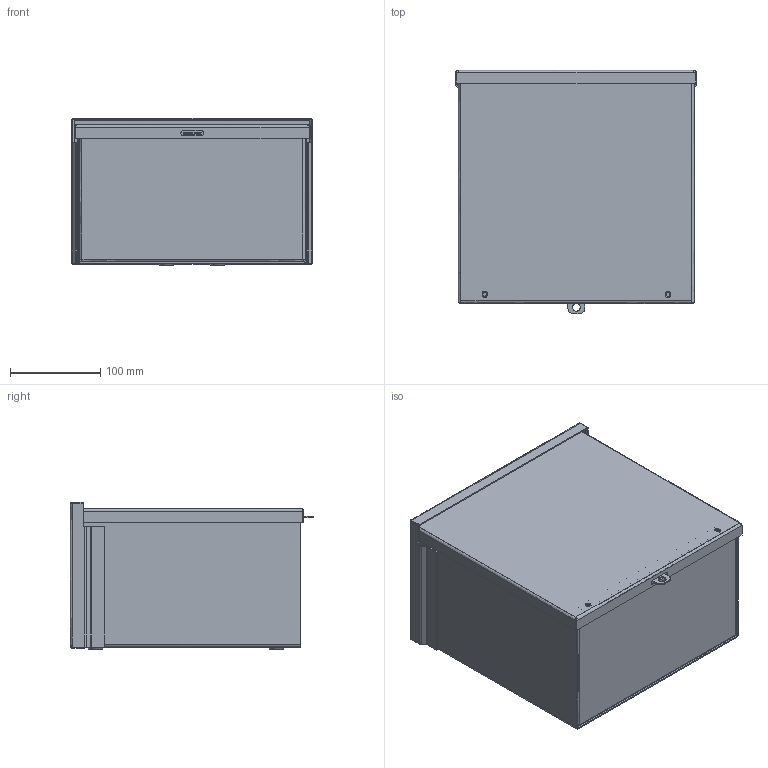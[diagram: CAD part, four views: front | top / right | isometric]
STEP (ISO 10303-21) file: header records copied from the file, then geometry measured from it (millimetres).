
FILE_DESCRIPTION((''),'2;1');
FILE_NAME('D:\scratch\ideas\a10r106nk.stp','2006-12-14T09:04:22',( 'User'),('SDRC'),'I-DEAS Master Series 9','UNIX','Yes');
FILE_SCHEMA(('AUTOMOTIVE_DESIGN { 1 0 10303 214 0 1 1 1 }'));
Length unit declared in the file: inch
Products named in the file (7): 13497; 3rsc_wmt_body_10x10x6_nk; 3rsc_top_10x6; 3rsc_bottom_10x6_nk; 3rsc_body_10x10x6; 3rsc_cover_10x10; 78124001
Assembly tree (6 placements, depth 3):
  13497
    3rsc_wmt_body_10x10x6_nk
      3rsc_top_10x6
      3rsc_bottom_10x6_nk
      3rsc_body_10x10x6
    3rsc_cover_10x10
    78124001
Bounding box: 266.7 x 269.95 x 163.83 mm (x, y, z)
Volume: 463210.9 mm3; surface area: 670481.2 mm2
Topology: 5 solids, 5 shells, 239 faces, 615 edges, 392 vertices
Faces by surface type: bspline 239
Entity records: 7574 total; most frequent: CARTESIAN_POINT 3603, ORIENTED_EDGE 1230, EDGE_CURVE 615, VERTEX_POINT 392, QUASI_UNIFORM_CURVE 308, EDGE_LOOP 273, FACE_OUTER_BOUND 239, ADVANCED_FACE 239
